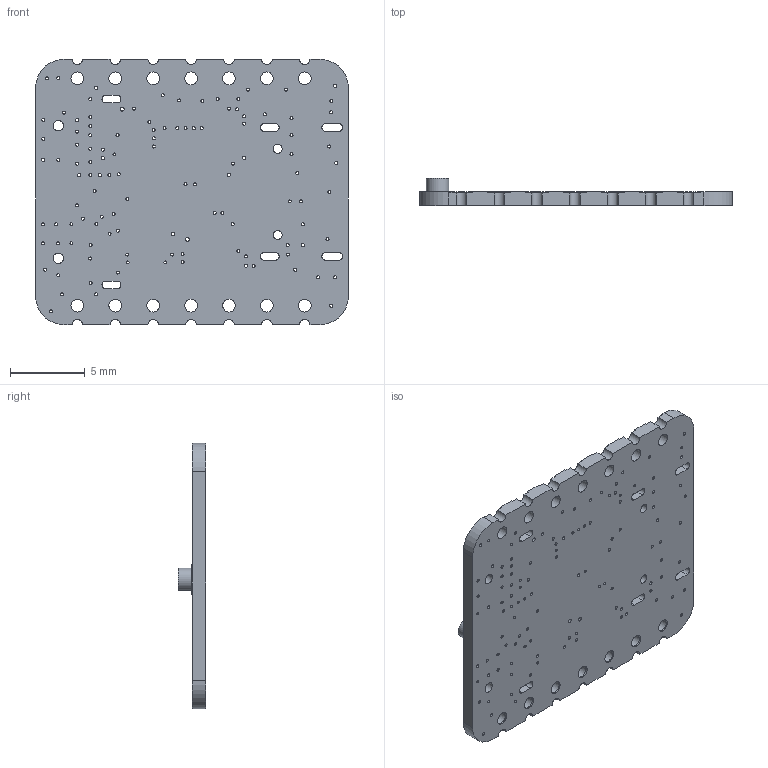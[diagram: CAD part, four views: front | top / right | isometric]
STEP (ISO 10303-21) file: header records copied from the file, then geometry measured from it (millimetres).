
FILE_DESCRIPTION(/* description */ ('STEP AP242 Edition 2','CAx-IF Rec.Pracs.---Representation and Presentation of Product Manufacturing Information (PMI)---4.0---2014-10-13','CAx-IF Rec.Pracs.---3D Tessellated Geometry---0.4---2014-09-14','2;1','CAx-IF Rec.Pracs.---User Defined Attributes---1.5---2016-08-15'),/* implementation_level */ '2;1');
FILE_NAME(/* name */ 'Assembly 1 - Board-1',/* time_stamp */ '2026-04-30T00:36:45Z',/* author */ (''),/* organization */ (''),/* preprocessor_version */ 'ST-DEVELOPER v20',/* originating_system */ 'ONSHAPE BY PTC INC, 1.214',/* authorisation */ ' ');
FILE_SCHEMA (('AP242_MANAGED_MODEL_BASED_3D_ENGINEERING_MIM_LF { 1 0 10303 442 3 1 4 }'));
Length unit declared in the file: metre
Products named in the file (1): Board:1
Bounding box: 20.95 x 1.82 x 17.78 mm (x, y, z)
Volume: 314.6 mm3; surface area: 912.4 mm2
Topology: 1 solids, 1 shells, 593 faces, 1699 edges, 1125 vertices
Faces by surface type: plane 400, cylinder 193
Full cylindrical faces by diameter (mm): 0.1 x1, 0.203 x125, 0.254 x3, 0.6 x2, 0.7 x2, 0.85 x7, 1.3 x1, 1.5 x1
Entity records: 21298 total; most frequent: CARTESIAN_POINT 3230, DIRECTION 3136, ORIENTED_EDGE 3054, EDGE_CURVE 1527, VERTEX_POINT 1109, LINE 1106, VECTOR 1106, EDGE_LOOP 1044
